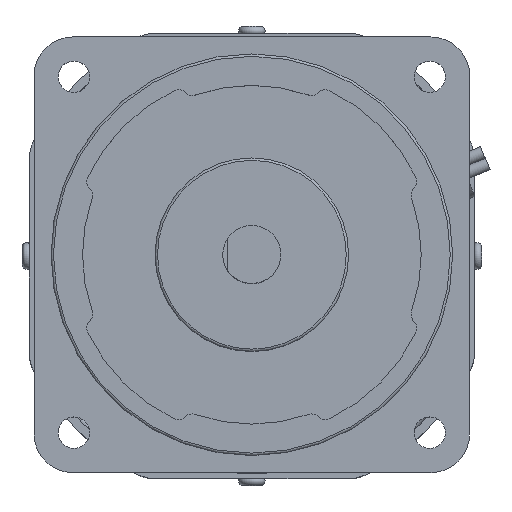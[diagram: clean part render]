
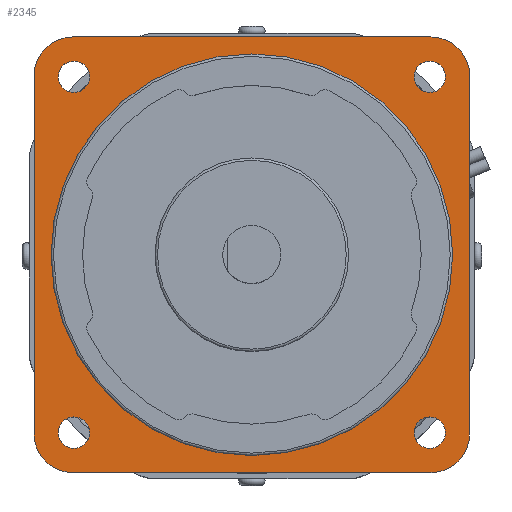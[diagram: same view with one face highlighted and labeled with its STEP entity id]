
A CAD part, top view. The second image highlights one B-rep face of the part: STEP entity #2345.
In plain terms, the highlighted planar face has unit normal (0, 0, 1).
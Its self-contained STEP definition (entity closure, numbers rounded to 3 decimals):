
#1947=CARTESIAN_POINT('',(45.0,-37.,200.0));
#1948=VERTEX_POINT('',#1947);
#1955=CARTESIAN_POINT('',(37.0,-45.0,200.0));
#1956=VERTEX_POINT('',#1955);
#1957=CARTESIAN_POINT('',(37.0,-37.0,200.0));
#1958=DIRECTION('',(0.0,0.0,-1.0));
#1959=DIRECTION('',(0.0,1.0,0.0));
#1960=AXIS2_PLACEMENT_3D('',#1957,#1958,#1959);
#1961=CIRCLE('',#1960,8.);
#1962=EDGE_CURVE('',#1948,#1956,#1961,.T.);
#1978=CARTESIAN_POINT('',(-37.,-45.0,200.0));
#1979=VERTEX_POINT('',#1978);
#1980=CARTESIAN_POINT('',(37.0,-45.0,200.0));
#1981=DIRECTION('',(-1.0,0.0,0.0));
#1982=VECTOR('',#1981,74.0);
#1983=LINE('',#1980,#1982);
#1984=EDGE_CURVE('',#1956,#1979,#1983,.T.);
#2025=CARTESIAN_POINT('',(-45.0,-37.0,200.0));
#2026=VERTEX_POINT('',#2025);
#2027=CARTESIAN_POINT('',(-37.0,-37.0,200.0));
#2028=DIRECTION('',(0.0,0.0,-1.0));
#2029=DIRECTION('',(1.0,0.0,0.0));
#2030=AXIS2_PLACEMENT_3D('',#2027,#2028,#2029);
#2031=CIRCLE('',#2030,8.);
#2032=EDGE_CURVE('',#1979,#2026,#2031,.T.);
#2048=CARTESIAN_POINT('',(-45.0,37.,200.0));
#2049=VERTEX_POINT('',#2048);
#2050=CARTESIAN_POINT('',(-45.0,-37.0,200.0));
#2051=DIRECTION('',(0.0,1.0,0.0));
#2052=VECTOR('',#2051,74.0);
#2053=LINE('',#2050,#2052);
#2054=EDGE_CURVE('',#2026,#2049,#2053,.T.);
#2080=CARTESIAN_POINT('',(-37.0,45.0,200.0));
#2081=VERTEX_POINT('',#2080);
#2082=CARTESIAN_POINT('',(-37.0,37.0,200.0));
#2083=DIRECTION('',(0.0,0.0,-1.0));
#2084=DIRECTION('',(0.0,-1.0,0.0));
#2085=AXIS2_PLACEMENT_3D('',#2082,#2083,#2084);
#2086=CIRCLE('',#2085,8.);
#2087=EDGE_CURVE('',#2049,#2081,#2086,.T.);
#2103=CARTESIAN_POINT('',(37.,45.0,200.0));
#2104=VERTEX_POINT('',#2103);
#2105=CARTESIAN_POINT('',(-37.0,45.0,200.0));
#2106=DIRECTION('',(1.0,0.0,0.0));
#2107=VECTOR('',#2106,74.0);
#2108=LINE('',#2105,#2107);
#2109=EDGE_CURVE('',#2081,#2104,#2108,.T.);
#2134=CARTESIAN_POINT('',(45.0,37.0,200.0));
#2135=VERTEX_POINT('',#2134);
#2136=CARTESIAN_POINT('',(37.0,37.0,200.0));
#2137=DIRECTION('',(0.0,0.0,-1.0));
#2138=DIRECTION('',(-1.0,0.0,0.0));
#2139=AXIS2_PLACEMENT_3D('',#2136,#2137,#2138);
#2140=CIRCLE('',#2139,8.);
#2141=EDGE_CURVE('',#2104,#2135,#2140,.T.);
#2157=CARTESIAN_POINT('',(45.0,37.0,200.0));
#2158=DIRECTION('',(0.0,-1.0,0.0));
#2159=VECTOR('',#2158,74.0);
#2160=LINE('',#2157,#2159);
#2161=EDGE_CURVE('',#2135,#1948,#2160,.T.);
#2185=CARTESIAN_POINT('',(40.02,36.77,200.0));
#2186=VERTEX_POINT('',#2185);
#2187=CARTESIAN_POINT('',(36.77,36.77,200.0));
#2188=DIRECTION('',(0.0,0.0,-1.0));
#2189=DIRECTION('',(-1.0,0.0,0.0));
#2190=AXIS2_PLACEMENT_3D('',#2187,#2188,#2189);
#2191=CIRCLE('',#2190,3.25);
#2192=EDGE_CURVE('',#2186,#2186,#2191,.T.);
#2205=CARTESIAN_POINT('',(40.02,-36.77,200.0));
#2206=VERTEX_POINT('',#2205);
#2207=CARTESIAN_POINT('',(36.77,-36.77,200.0));
#2208=DIRECTION('',(0.0,0.0,-1.0));
#2209=DIRECTION('',(-1.0,0.0,0.0));
#2210=AXIS2_PLACEMENT_3D('',#2207,#2208,#2209);
#2211=CIRCLE('',#2210,3.25);
#2212=EDGE_CURVE('',#2206,#2206,#2211,.T.);
#2225=CARTESIAN_POINT('',(-33.52,-36.77,200.0));
#2226=VERTEX_POINT('',#2225);
#2227=CARTESIAN_POINT('',(-36.77,-36.77,200.0));
#2228=DIRECTION('',(0.0,0.0,-1.0));
#2229=DIRECTION('',(-1.0,0.0,0.0));
#2230=AXIS2_PLACEMENT_3D('',#2227,#2228,#2229);
#2231=CIRCLE('',#2230,3.25);
#2232=EDGE_CURVE('',#2226,#2226,#2231,.T.);
#2245=CARTESIAN_POINT('',(-33.52,36.77,200.0));
#2246=VERTEX_POINT('',#2245);
#2247=CARTESIAN_POINT('',(-36.77,36.77,200.0));
#2248=DIRECTION('',(0.0,0.0,-1.0));
#2249=DIRECTION('',(-1.0,0.0,0.0));
#2250=AXIS2_PLACEMENT_3D('',#2247,#2248,#2249);
#2251=CIRCLE('',#2250,3.25);
#2252=EDGE_CURVE('',#2246,#2246,#2251,.T.);
#2292=CARTESIAN_POINT('',(41.5,0.,200.0));
#2293=VERTEX_POINT('',#2292);
#2294=CARTESIAN_POINT('',(0.,0.,200.0));
#2295=DIRECTION('',(0.0,0.0,-1.0));
#2296=DIRECTION('',(-1.0,0.0,0.0));
#2297=AXIS2_PLACEMENT_3D('',#2294,#2295,#2296);
#2298=CIRCLE('',#2297,41.5);
#2299=EDGE_CURVE('',#2293,#2293,#2298,.T.);
#2315=CARTESIAN_POINT('',(0.,0.,200.0));
#2316=DIRECTION('',(0.0,0.0,-1.0));
#2317=DIRECTION('',(-1.0,0.0,0.0));
#2318=AXIS2_PLACEMENT_3D('',#2315,#2316,#2317);
#2319=PLANE('',#2318);
#2320=ORIENTED_EDGE('',*,*,#2161,.F.);
#2321=ORIENTED_EDGE('',*,*,#2141,.F.);
#2322=ORIENTED_EDGE('',*,*,#2109,.F.);
#2323=ORIENTED_EDGE('',*,*,#2087,.F.);
#2324=ORIENTED_EDGE('',*,*,#2054,.F.);
#2325=ORIENTED_EDGE('',*,*,#2032,.F.);
#2326=ORIENTED_EDGE('',*,*,#1984,.F.);
#2327=ORIENTED_EDGE('',*,*,#1962,.F.);
#2328=EDGE_LOOP('',(#2320,#2321,#2322,#2323,#2324,#2325,#2326,#2327));
#2329=FACE_OUTER_BOUND('',#2328,.T.);
#2330=ORIENTED_EDGE('',*,*,#2299,.T.);
#2331=EDGE_LOOP('',(#2330));
#2332=FACE_BOUND('',#2331,.T.);
#2333=ORIENTED_EDGE('',*,*,#2252,.T.);
#2334=EDGE_LOOP('',(#2333));
#2335=FACE_BOUND('',#2334,.T.);
#2336=ORIENTED_EDGE('',*,*,#2232,.T.);
#2337=EDGE_LOOP('',(#2336));
#2338=FACE_BOUND('',#2337,.T.);
#2339=ORIENTED_EDGE('',*,*,#2212,.T.);
#2340=EDGE_LOOP('',(#2339));
#2341=FACE_BOUND('',#2340,.T.);
#2342=ORIENTED_EDGE('',*,*,#2192,.T.);
#2343=EDGE_LOOP('',(#2342));
#2344=FACE_BOUND('',#2343,.T.);
#2345=ADVANCED_FACE('',(#2329,#2332,#2335,#2338,#2341,#2344),#2319,.F.);
